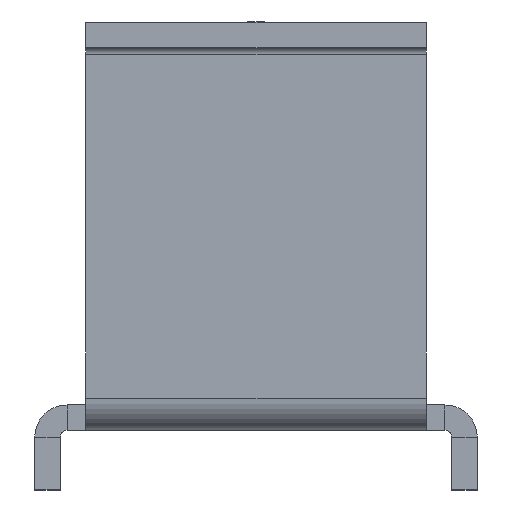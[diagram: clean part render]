
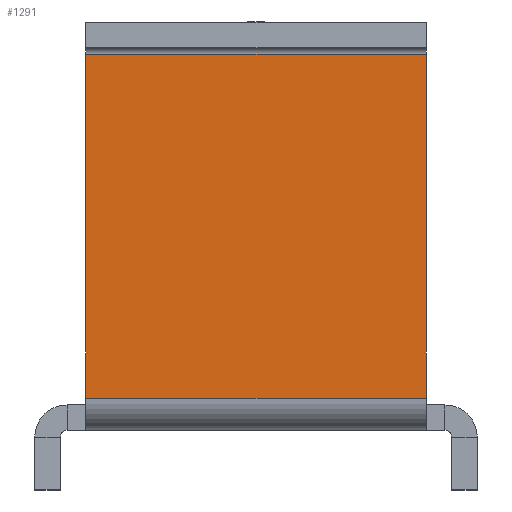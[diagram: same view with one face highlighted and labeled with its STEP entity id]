
A CAD part, left-side view. The second image highlights one B-rep face of the part: STEP entity #1291.
In plain terms, the highlighted planar face has unit normal (-1, 0, 0).
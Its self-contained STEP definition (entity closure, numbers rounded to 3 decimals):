
#68=PLANE('',#1406);
#143=FACE_OUTER_BOUND('',#227,.T.);
#227=EDGE_LOOP('',(#1137,#1138,#1139,#1140));
#363=LINE('',#2114,#503);
#364=LINE('',#2116,#504);
#365=LINE('',#2118,#505);
#366=LINE('',#2119,#506);
#503=VECTOR('',#1743,40.);
#504=VECTOR('',#1744,40.4);
#505=VECTOR('',#1745,40.);
#506=VECTOR('',#1746,40.4);
#655=VERTEX_POINT('',#2108);
#656=VERTEX_POINT('',#2113);
#657=VERTEX_POINT('',#2115);
#658=VERTEX_POINT('',#2117);
#822=EDGE_CURVE('',#656,#655,#363,.T.);
#823=EDGE_CURVE('',#657,#656,#364,.T.);
#824=EDGE_CURVE('',#657,#658,#365,.T.);
#825=EDGE_CURVE('',#655,#658,#366,.T.);
#1137=ORIENTED_EDGE('',*,*,#822,.F.);
#1138=ORIENTED_EDGE('',*,*,#823,.F.);
#1139=ORIENTED_EDGE('',*,*,#824,.T.);
#1140=ORIENTED_EDGE('',*,*,#825,.F.);
#1291=ADVANCED_FACE('',(#143),#68,.F.);
#1406=AXIS2_PLACEMENT_3D('',#2112,#1741,#1742);
#1741=DIRECTION('center_axis',(1.,0.,0.));
#1742=DIRECTION('ref_axis',(0.,0.,-1.));
#1743=DIRECTION('',(0.,1.,0.));
#1744=DIRECTION('',(0.,0.,-1.));
#1745=DIRECTION('',(0.,1.,0.));
#1746=DIRECTION('',(0.,0.,1.));
#2108=CARTESIAN_POINT('',(-40.,20.,-44.2));
#2112=CARTESIAN_POINT('Origin',(-40.,0.,
-82.75));
#2113=CARTESIAN_POINT('',(-40.,-20.,-44.2));
#2114=CARTESIAN_POINT('',(-40.,0.,-44.2));
#2115=CARTESIAN_POINT('',(-40.,-20.,-3.8));
#2116=CARTESIAN_POINT('',(-40.,-20.,-164.05));
#2117=CARTESIAN_POINT('',(-40.,20.,-3.8));
#2118=CARTESIAN_POINT('',(-40.,0.,-3.8));
#2119=CARTESIAN_POINT('',(-40.,20.,24.75));
